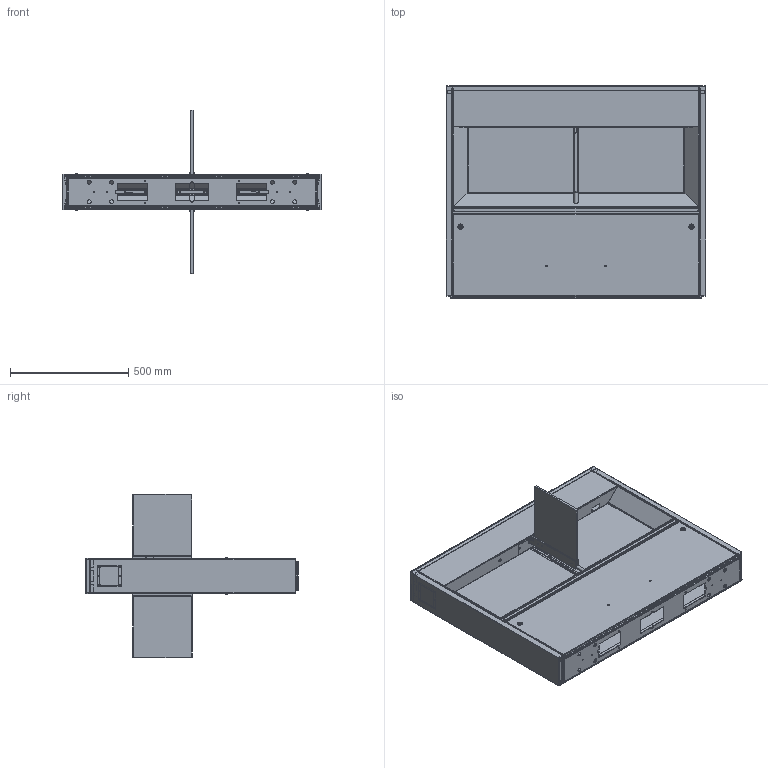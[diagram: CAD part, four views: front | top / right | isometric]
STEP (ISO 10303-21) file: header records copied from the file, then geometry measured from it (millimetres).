
FILE_DESCRIPTION (( 'STEP AP214' ), '1' );
FILE_NAME ('ライトゲート_センター【標準標準】.STEP', '2023-02-21T00:38:15', ( 'cadcl' ), ( 'Hewlett-Packard Company' ), 'SwSTEP 2.0', 'SolidWorks 2022', '' );
FILE_SCHEMA (( 'AUTOMOTIVE_DESIGN' ));
Length unit declared in the file: millimetre
Products named in the file (49): 201-06295-29; 201-06290-21; 201-06290-15_面発光なし; 201-06292-32; Z02-00150-00_取付時:t1.5mm; Z03-00314-00; 201-06291-29_デフォルト; 201-06291-02; 201-06295-58; 201-06295-23; 201-06292-33; 201-06291-01; 201-06295-62; 201-06292-44; 201-06292-35; 201-06292-59; 201-06290-00; 201-06292-73; 201-06291-75_閉状態; 301-06197-00_施錠; 201-06291-00; Z05-00032-00; 201-06290-17; 201-06292-90; 201-06290-04; 201-06292-31; 201-06295-61; 201-06292-34; 201-06292-39; 201-06292-36; 201-06292-61; 201-06295-54; 201-06291-51; 201-06291-35; 201-05997-02; 201-06290-01; 201-06291-19; ライトゲート_センター【標準標準】; 201-06292-72; 201-06291-28_デフォルト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
Assembly tree (72 placements, depth 5):
  201-06290-21
  ライトゲート_センター【標準標準】
    201-06292-33
      201-06292-56
        201-06291-02
          201-06291-00
          201-06291-01
      201-06292-29
        201-06292-61
        201-06290-01
      201-06292-72
        201-06292-73
        201-06290-01
      201-06295-23  x2
        201-06295-54
        201-06290-00
        Z07-00045-00_１．０：１．６
      201-06291-19  x2
        201-06295-29
        301-06197-00_施錠
        301-06197-01_施錠
      201-06291-31  x2
        201-06291-30
        Z02-00150-00_取付時:t1.5mm
      201-06292-34  x2
        201-06292-35
        Z02-00150-00_取付時:t1.5mm
      201-06292-32
        201-06292-31
      201-06291-75_閉状態  x2
        201-06292-90
          201-06292-36
          Z05-00032-00
        201-06295-58
          201-06291-51
      201-06291-28_デフォルト  x2
      201-06291-29_デフォルト  x2
      201-06291-58  x2
      Z03-00314-00  x4
    201-06291-35  x2
      201-06290-02
    201-06292-39  x2
      201-06290-17
        201-06290-15_面発光なし
    201-06292-44  x2
    201-06290-04  x2
    201-06295-61
      201-06291-78
    201-06295-62
      201-06292-59
    201-06292-59
    201-06291-78
    201-05997-02  x2
Bounding box: 1100 x 900 x 692 mm (x, y, z)
Volume: 7183667 mm3; surface area: 6985756.4 mm2
Topology: 67 solids, 67 shells, 4397 faces, 11289 edges, 7062 vertices
Faces by surface type: plane 2776, cylinder 1309, cone 132, bspline 116, torus 48, sphere 16
Entity records: 82415 total; most frequent: CARTESIAN_POINT 16450, ORIENTED_EDGE 13314, DIRECTION 12987, EDGE_CURVE 6657, VECTOR 4835, LINE 4835, VERTEX_POINT 4189, AXIS2_PLACEMENT_3D 4076
